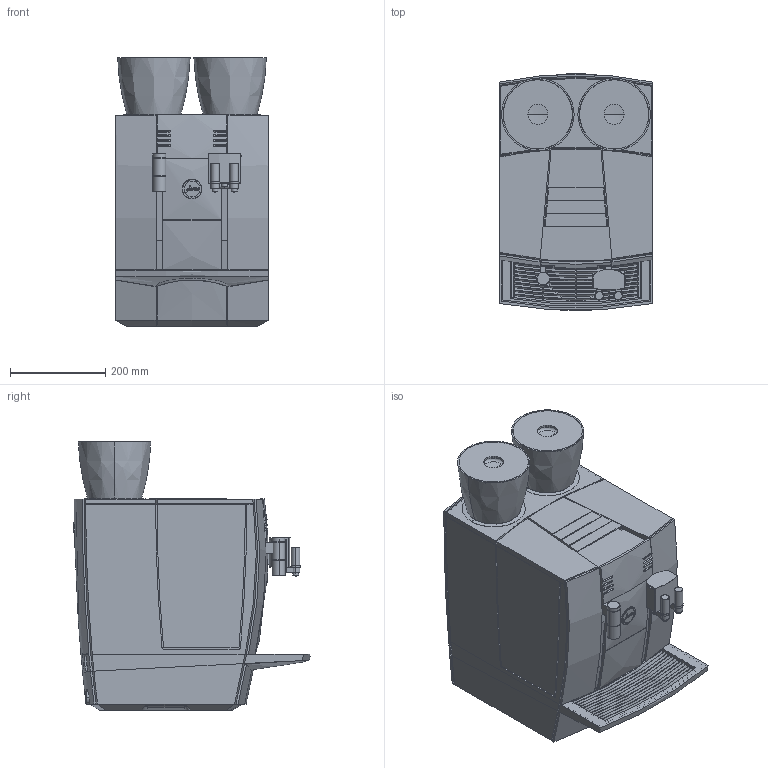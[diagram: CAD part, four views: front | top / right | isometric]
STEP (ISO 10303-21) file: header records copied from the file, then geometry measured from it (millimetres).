
FILE_DESCRIPTION(/* description */ (''),/* implementation_level */ '2;1');
FILE_NAME(/* name */ 'GIGA_X7cc_Professional_Design.stp',/* time_stamp */ '2012-11-29T16:38:52+01:00',/* author */ (''),/* organization */ (''),/* preprocessor_version */ 'ST-DEVELOPER v11',/* originating_system */ 'SIEMENS UGS NX 6.0',/* authorisation */ '');
FILE_SCHEMA (('AUTOMOTIVE_DESIGN { 1 0 10303 214 1 1 1 1 }'));
Products named in the file (1): GIGA_X7cc_Professional_Design
Bounding box: 320 x 495.48 x 562.5 mm (x, y, z)
Volume: 51703151.4 mm3; surface area: 2986378.1 mm2
Topology: 75 solids, 77 shells, 1298 faces, 3717 edges, 2489 vertices
Faces by surface type: plane 420, cylinder 311, bspline 310, revolution 99, torus 73, cone 47, sphere 38
Full cylindrical faces by diameter (mm): 6 x2, 10.3 x1, 10.8 x2, 15 x1, 26 x1, 27.5 x1, 39 x2, 39.5 x2, 41 x2, 41.5 x2, 132.5 x2
Entity records: 60293 total; most frequent: CARTESIAN_POINT 30031, ORIENTED_EDGE 7306, DIRECTION 4861, EDGE_CURVE 3653, VERTEX_POINT 2470, AXIS2_PLACEMENT_3D 1827, EDGE_LOOP 1377, ADVANCED_FACE 1292
